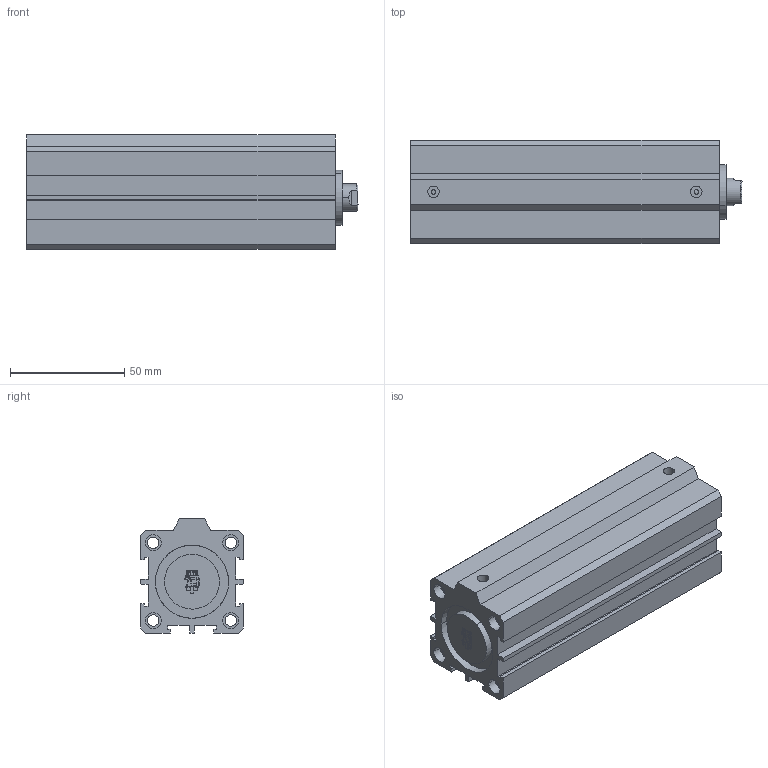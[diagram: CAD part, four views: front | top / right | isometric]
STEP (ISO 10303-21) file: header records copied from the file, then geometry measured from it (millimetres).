
FILE_DESCRIPTION(('CATIA V5 STEP Exchange'),'2;1');
FILE_NAME('D:\PDA\PDA-STP\PDA 32-12\PDA 32-12-100.stp','2016-02-02T10:43:13+00:00',('none'),('none'),'Version 5-6 Release 2012','CATIA V5 STEP AP203','none');
FILE_SCHEMA(('CONFIG_CONTROL_DESIGN'));
Length unit declared in the file: millimetre
Products named in the file (1): PDA 32-12-100-00
Assembly tree (2 placements, depth 2):
  PDA 32-12-100-00
    #58
    #6193
Bounding box: 145.25 x 45 x 50 mm (x, y, z)
Volume: 167498.9 mm3; surface area: 66241.6 mm2
Topology: 2 solids, 2 shells, 233 faces, 602 edges, 404 vertices
Faces by surface type: plane 163, cylinder 68, cone 2
Entity records: 6699 total; most frequent: CARTESIAN_POINT 1225, ORIENTED_EDGE 1204, DIRECTION 900, EDGE_CURVE 602, VECTOR 444, LINE 444, VERTEX_POINT 404, AXIS2_PLACEMENT_3D 301
